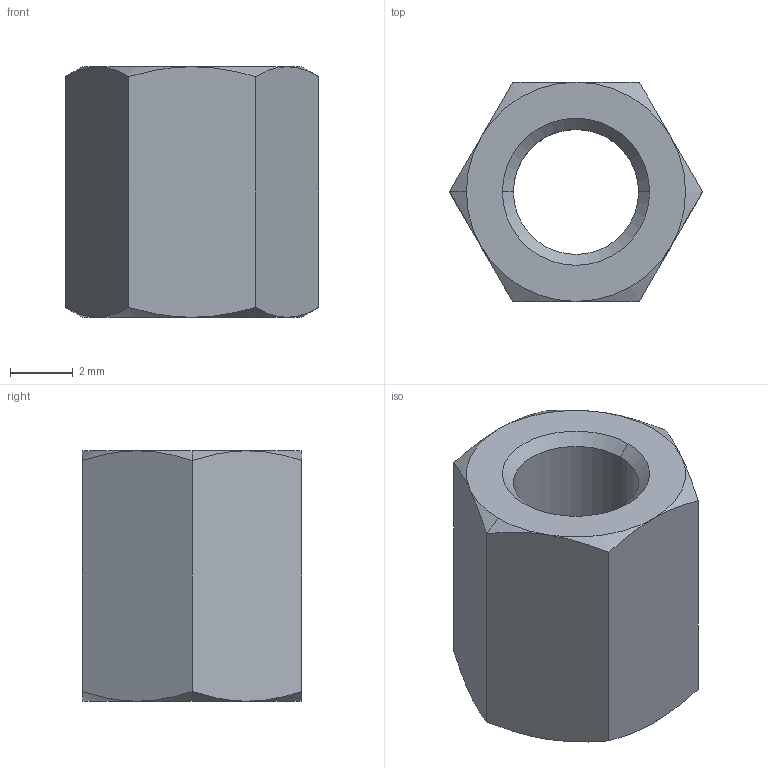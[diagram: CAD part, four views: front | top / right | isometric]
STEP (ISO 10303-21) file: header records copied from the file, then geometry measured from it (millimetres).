
FILE_DESCRIPTION (( 'STEP AP203' ), '1' );
FILE_NAME ('N0503.040-008-NP.step', '2025-02-27T14:42:12', ( '' ), ( '' ), 'SwSTEP 2.0', 'SolidWorks 2019', '' );
FILE_SCHEMA (( 'CONFIG_CONTROL_DESIGN' ));
Length unit declared in the file: millimetre
Products named in the file (1): N0503.040-008-NP
Bounding box: 8.08 x 7 x 8 mm (x, y, z)
Volume: 236.6 mm3; surface area: 345.4 mm2
Topology: 1 solids, 1 shells, 28 faces, 60 edges, 34 vertices
Faces by surface type: cone 18, plane 8, cylinder 2
Entity records: 875 total; most frequent: CARTESIAN_POINT 223, ORIENTED_EDGE 120, DIRECTION 116, EDGE_CURVE 60, AXIS2_PLACEMENT_3D 51, VERTEX_POINT 34, EDGE_LOOP 30, ADVANCED_FACE 28
